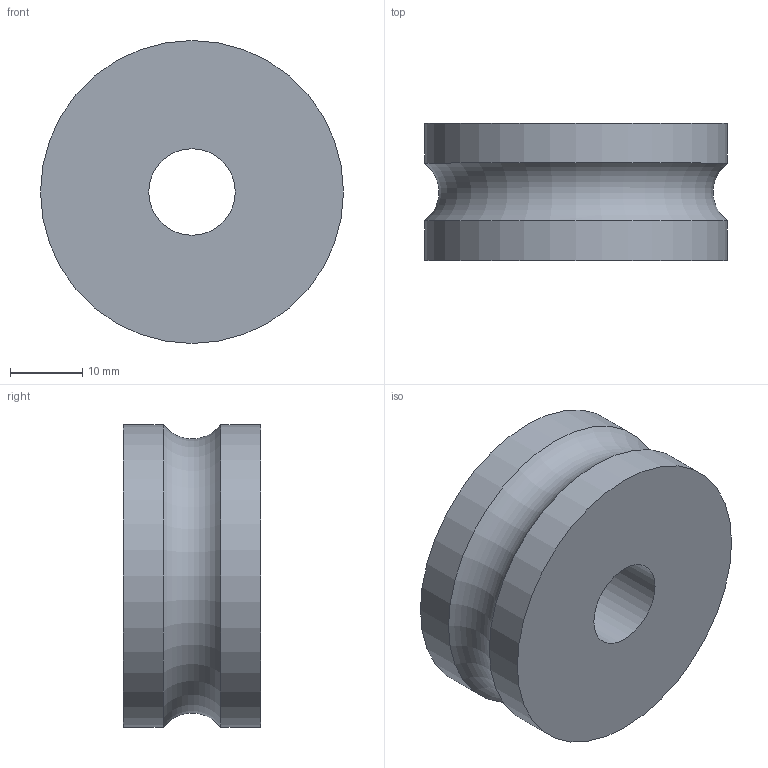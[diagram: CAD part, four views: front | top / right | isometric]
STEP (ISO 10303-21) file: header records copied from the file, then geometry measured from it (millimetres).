
FILE_DESCRIPTION (( 'STEP AP214' ), '1' );
FILE_NAME ('LFR5301KDD.STEP', '2020-05-12T02:02:59', ( '' ), ( '' ), 'SwSTEP 2.0', 'SolidWorks 2019', '' );
FILE_SCHEMA (( 'AUTOMOTIVE_DESIGN' ));
Length unit declared in the file: millimetre
Products named in the file (1): LFR5301KDD
Bounding box: 42 x 19 x 42 mm (x, y, z)
Volume: 22756.4 mm3; surface area: 5859.4 mm2
Topology: 1 solids, 1 shells, 6 faces, 10 edges, 6 vertices
Faces by surface type: cylinder 3, plane 2, torus 1
Full cylindrical faces by diameter (mm): 12 x1, 42 x2
Entity records: 162 total; most frequent: DIRECTION 26, CARTESIAN_POINT 19, AXIS2_PLACEMENT_3D 13, EDGE_LOOP 12, ORIENTED_EDGE 12, FACE_OUTER_BOUND 10, EDGE_CURVE 6, CIRCLE 6
